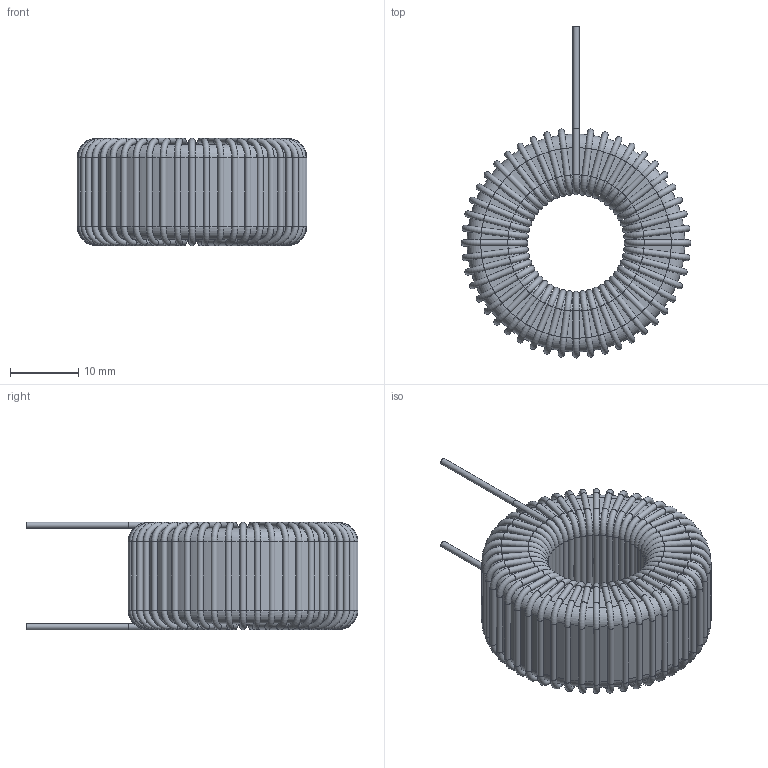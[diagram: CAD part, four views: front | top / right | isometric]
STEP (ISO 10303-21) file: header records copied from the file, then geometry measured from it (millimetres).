
FILE_DESCRIPTION(/* description */ (''),/* implementation_level */ '2;1');
FILE_NAME(/* name */ '\\Snap1\dwgs\Customer 3D Models\555\555-8830.stp',/* time_stamp */ '2016-12-22T17:30:06+00:00',/* author */ ('P. Karlsons'),/* organization */ (''),/* preprocessor_version */ 'ST-DEVELOPER v15.2',/* originating_system */ 'Autodesk Inventor 2014',/* authorisation */ '');
FILE_SCHEMA (('CONFIG_CONTROL_DESIGN'));
Length unit declared in the file: millimetre
Products named in the file (1): 555-8830-xx
Bounding box: 33.8 x 48.8 x 15.81 mm (x, y, z)
Volume: 9513.2 mm3; surface area: 9126.8 mm2
Topology: 51 solids, 51 shells, 780 faces, 1174 edges, 398 vertices
Faces by surface type: torus 384, cylinder 294, plane 102
Full cylindrical faces by diameter (mm): 0.9 x194, 0.91 x2
Entity records: 17784 total; most frequent: DIRECTION 3690, ORIENTED_EDGE 3100, CARTESIAN_POINT 2393, AXIS2_PLACEMENT_3D 1749, EDGE_CURVE 1164, CIRCLE 970, EDGE_LOOP 788, ADVANCED_FACE 778
